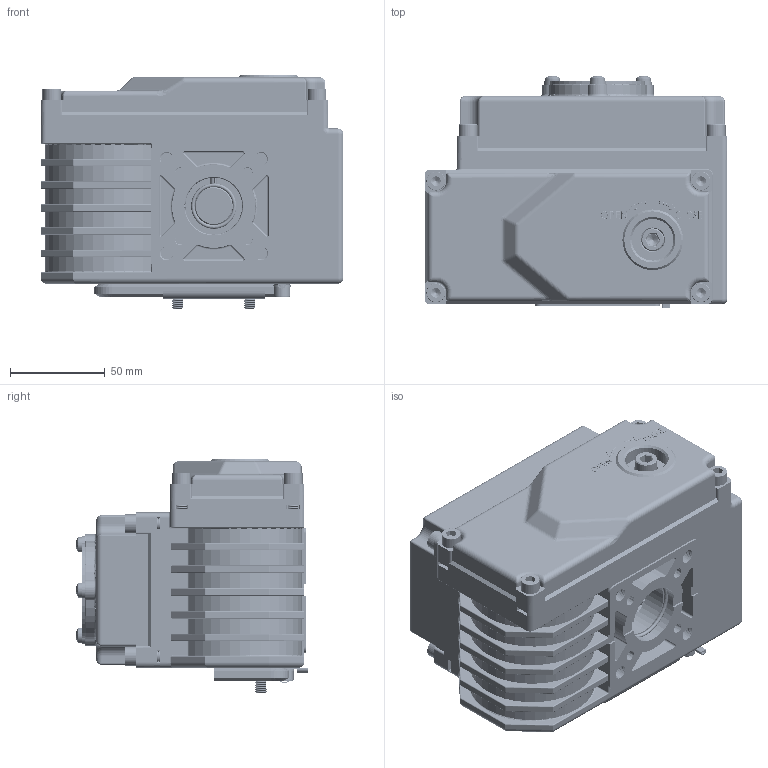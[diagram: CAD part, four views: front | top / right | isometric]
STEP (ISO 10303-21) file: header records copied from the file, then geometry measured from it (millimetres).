
FILE_DESCRIPTION (( 'STEP AP203' ), '1' );
FILE_NAME ('ITQ0080-ASSEMBLY TOTAL.STEP', '2014-03-11T06:24:28', ( '' ), ( '' ), 'SwSTEP 2.0', 'SolidWorks 2011', '' );
FILE_SCHEMA (( 'CONFIG_CONTROL_DESIGN' ));
Products named in the file (35): gear pin-1; gear pin; 607ZZ_AFBMA 12.1.4.1 - 0070-17 - 10,DE,AC,10_68; 607ZZ_AFBMA 12.1.4.1 - 0070-19 - 8,DE,AC,8_68; WORM GEAR; shaft; Indicator; Bushing; BEARING COVER; M6x15_ISO 4762 M6 x 16 --- 16S; M4x6_JIS B 1111 Cross recessed pan head screw - M4 x 8 - Z --8S; AN025; window cover; window; Spring washer M10_JIS B 1251 No.2 6; cover(喻飄)_だ欽; Gear cover(喻飄た)_だ欽; body(喻飄た); ITQ0080-ASSEMBLY TOTAL; L-Wrench 6mm; Wrench bk; AN123; AN117; disc spring; bush1; Spring Pin 3.8x28_Spring Pin ISO 8752 - 3.5 x 18 - St; cover o-ring_だ欽; gear cover o-ring_だ欽; 蕾雖; Spring washer M10_JIS B 1251 No.2 5; M5x10_ISO 4762 M5 x 16 --- 16S; 詭紱塭007; MOTER; M6x45_ISO 4762 M6 x 30 --- 30S; M5x12_ISO 7045 - M5 x 12 - Z --- 12S
Assembly tree (49 placements, depth 2):
  ITQ0080-ASSEMBLY TOTAL
    AN117
    Bushing  x2
    607ZZ_AFBMA 12.1.4.1 - 0070-19 - 8,DE,AC,8_68
    M6x15_ISO 4762 M6 x 16 --- 16S  x8
    Wrench bk
    gear cover o-ring_だ欽
    M6x45_ISO 4762 M6 x 30 --- 30S  x2
    window cover
    cover(喻飄)_だ欽
    Indicator
    gear pin-1
    AN025
    Spring washer M10_JIS B 1251 No.2 6  x2
    M5x12_ISO 7045 - M5 x 12 - Z --- 12S
    M4x6_JIS B 1111 Cross recessed pan head screw - M4 x 8 - Z --8S  x4
    body(喻飄た)
    L-Wrench 6mm
    gear pin
    MOTER
    bush1
    window
    Spring washer M10_JIS B 1251 No.2 5
    Spring Pin 3.8x28_Spring Pin ISO 8752 - 3.5 x 18 - St
    蕾雖
    詭紱塭007  x2
    BEARING COVER
    cover o-ring_だ欽
    M5x10_ISO 4762 M5 x 16 --- 16S
    shaft
    disc spring  x2
    607ZZ_AFBMA 12.1.4.1 - 0070-17 - 10,DE,AC,10_68
    WORM GEAR
    AN123
    Gear cover(喻飄た)_だ欽
Bounding box: 160 x 122.72 x 123.1 mm (x, y, z)
Volume: 604001.7 mm3; surface area: 298847.1 mm2
Topology: 50 solids, 50 shells, 6142 faces, 16258 edges, 10135 vertices
Faces by surface type: cylinder 2749, plane 1177, cone 1031, bspline 580, torus 367, sphere 238
Entity records: 257203 total; most frequent: CARTESIAN_POINT 138038, ORIENTED_EDGE 26812, DIRECTION 21826, EDGE_CURVE 13406, VERTEX_POINT 8495, AXIS2_PLACEMENT_3D 8291, EDGE_LOOP 5305, LINE 5244
